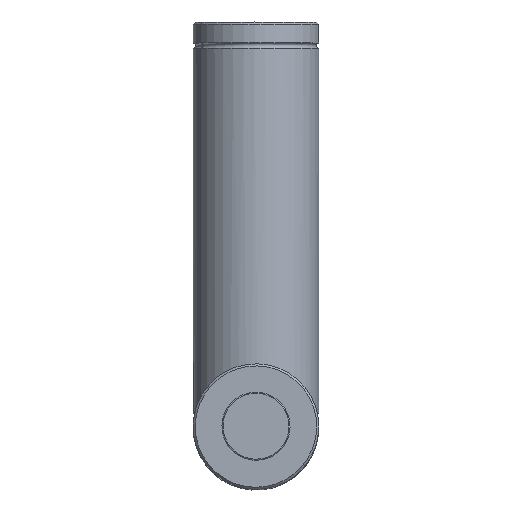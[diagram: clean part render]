
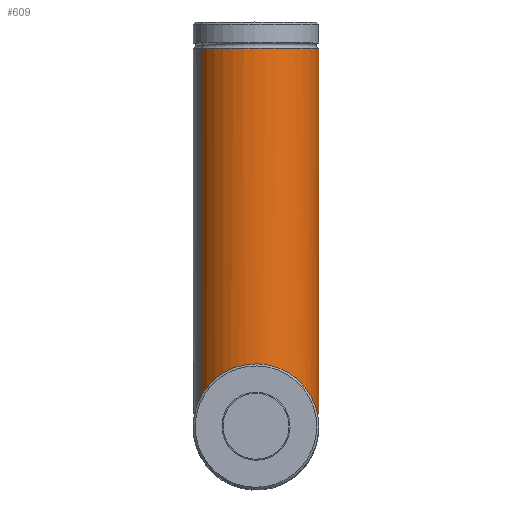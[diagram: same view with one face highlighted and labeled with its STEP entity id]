
A CAD part, top view. The second image highlights one B-rep face of the part: STEP entity #609.
In plain terms, the highlighted cylindrical face has radius 60 mm (diameter 120 mm), a partial arc.
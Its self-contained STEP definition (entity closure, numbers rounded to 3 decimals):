
#440=CARTESIAN_POINT('Axis2P3D Location',(0.,193.5,0.)) ;
#492=CARTESIAN_POINT('Vertex',(52.655,362.001,-28.766)) ;
#499=CARTESIAN_POINT('Vertex',(-52.655,362.001,28.766)) ;
#514=CARTESIAN_POINT('Axis2P3D Location',(0.,362.001,0.)) ;
#526=CARTESIAN_POINT('Line Origine',(-52.655,193.,28.766)) ;
#530=CARTESIAN_POINT('Vertex',(-52.655,28.766,28.766)) ;
#533=CARTESIAN_POINT('Line Origine',(52.655,193.,-28.766)) ;
#537=CARTESIAN_POINT('Vertex',(52.655,13.,-28.766)) ;
#562=CARTESIAN_POINT('Axis2P3D Location',(0.,13.,0.)) ;
#566=CARTESIAN_POINT('Vertex',(58.575,13.,13.)) ;
#570=CARTESIAN_POINT('Control Point',(-52.655,28.766,28.766)) ;
#571=CARTESIAN_POINT('Control Point',(-49.959,33.7,33.7)) ;
#572=CARTESIAN_POINT('Control Point',(-46.611,38.455,38.455)) ;
#573=CARTESIAN_POINT('Control Point',(-42.561,42.968,42.968)) ;
#574=CARTESIAN_POINT('Control Point',(-35.119,49.36,49.36)) ;
#575=CARTESIAN_POINT('Control Point',(-25.87,54.33,54.33)) ;
#576=CARTESIAN_POINT('Control Point',(-22.371,55.877,55.877)) ;
#577=CARTESIAN_POINT('Control Point',(-15.896,58.122,58.122)) ;
#578=CARTESIAN_POINT('Control Point',(-8.952,59.445,59.445)) ;
#579=CARTESIAN_POINT('Control Point',(-5.913,59.827,59.827)) ;
#580=CARTESIAN_POINT('Control Point',(0.396,60.206,60.206)) ;
#581=CARTESIAN_POINT('Control Point',(6.699,59.757,59.757)) ;
#582=CARTESIAN_POINT('Control Point',(9.891,59.308,59.308)) ;
#583=CARTESIAN_POINT('Control Point',(17.254,57.768,57.768)) ;
#584=CARTESIAN_POINT('Control Point',(24.05,55.204,55.204)) ;
#585=CARTESIAN_POINT('Control Point',(27.727,53.432,53.432)) ;
#586=CARTESIAN_POINT('Control Point',(36.471,48.301,48.301)) ;
#587=CARTESIAN_POINT('Control Point',(43.481,41.924,41.924)) ;
#588=CARTESIAN_POINT('Control Point',(47.12,37.726,37.726)) ;
#589=CARTESIAN_POINT('Control Point',(50.166,33.322,33.322)) ;
#590=CARTESIAN_POINT('Control Point',(52.655,28.766,28.766)) ;
#591=CARTESIAN_POINT('Vertex',(52.655,28.766,28.766)) ;
#595=CARTESIAN_POINT('Control Point',(58.575,13.,13.)) ;
#596=CARTESIAN_POINT('Control Point',(57.679,17.036,17.036)) ;
#597=CARTESIAN_POINT('Control Point',(56.403,21.03,21.03)) ;
#598=CARTESIAN_POINT('Control Point',(54.737,24.954,24.954)) ;
#599=CARTESIAN_POINT('Control Point',(52.655,28.766,28.766)) ;
#441=DIRECTION('Axis2P3D Direction',(0.,1.,0.)) ;
#442=DIRECTION('Axis2P3D XDirection',(0.878,0.,-0.479)) ;
#515=DIRECTION('Axis2P3D Direction',(0.,1.,0.)) ;
#527=DIRECTION('Vector Direction',(0.,1.,0.)) ;
#534=DIRECTION('Vector Direction',(0.,1.,0.)) ;
#563=DIRECTION('Axis2P3D Direction',(0.,1.,0.)) ;
#443=AXIS2_PLACEMENT_3D('Cylinder Axis2P3D',#440,#441,#442) ;
#516=AXIS2_PLACEMENT_3D('Circle Axis2P3D',#514,#515,$) ;
#564=AXIS2_PLACEMENT_3D('Circle Axis2P3D',#562,#563,$) ;
#602=ORIENTED_EDGE('',*,*,#568,.T.) ;
#603=ORIENTED_EDGE('',*,*,#539,.F.) ;
#604=ORIENTED_EDGE('',*,*,#518,.F.) ;
#605=ORIENTED_EDGE('',*,*,#532,.T.) ;
#606=ORIENTED_EDGE('',*,*,#593,.T.) ;
#607=ORIENTED_EDGE('',*,*,#600,.F.) ;
#528=VECTOR('Line Direction',#527,1.) ;
#535=VECTOR('Line Direction',#534,1.) ;
#609=ADVANCED_FACE('',(#608),#444,.T.) ;
#569=B_SPLINE_CURVE_WITH_KNOTS('',5,(#570,#571,#572,#573,#574,#575,#576,#577,#578,#579,#580,#581,#582,#583,#584,#585,#586,#587,#588,#589,#590),.UNSPECIFIED.,.F.,.U.,(6,3,3,3,3,3,6),(0.,52.894,81.864,103.576,126.457,157.673,206.515),.UNSPECIFIED.) ;
#594=B_SPLINE_CURVE_WITH_KNOTS('',4,(#595,#596,#597,#598,#599),.UNSPECIFIED.,.F.,.U.,(5,5),(0.,32.686),.UNSPECIFIED.) ;
#517=CIRCLE('generated circle',#516,60.) ;
#565=CIRCLE('generated circle',#564,60.) ;
#444=CYLINDRICAL_SURFACE('generated cylinder',#443,60.) ;
#518=EDGE_CURVE('',#500,#493,#517,.T.) ;
#532=EDGE_CURVE('',#500,#531,#529,.F.) ;
#539=EDGE_CURVE('',#493,#538,#536,.F.) ;
#568=EDGE_CURVE('',#567,#538,#565,.T.) ;
#593=EDGE_CURVE('',#531,#592,#569,.T.) ;
#600=EDGE_CURVE('',#567,#592,#594,.T.) ;
#601=EDGE_LOOP('',(#602,#603,#604,#605,#606,#607)) ;
#608=FACE_OUTER_BOUND('',#601,.T.) ;
#529=LINE('Line',#526,#528) ;
#536=LINE('Line',#533,#535) ;
#493=VERTEX_POINT('',#492) ;
#500=VERTEX_POINT('',#499) ;
#531=VERTEX_POINT('',#530) ;
#538=VERTEX_POINT('',#537) ;
#567=VERTEX_POINT('',#566) ;
#592=VERTEX_POINT('',#591) ;
